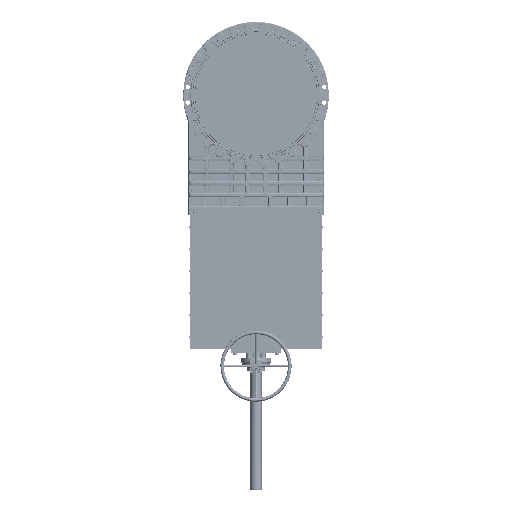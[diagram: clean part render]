
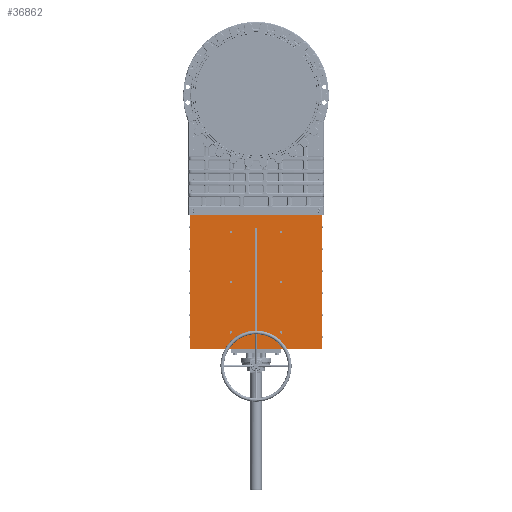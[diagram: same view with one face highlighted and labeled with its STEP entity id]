
A CAD part, top view. The second image highlights one B-rep face of the part: STEP entity #36862.
In plain terms, the highlighted planar face has unit normal (0, 0, 1).
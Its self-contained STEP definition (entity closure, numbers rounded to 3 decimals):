
#22228=PLANE('',#108870);
#24609=LINE('',#137655,#28668);
#27834=LINE('',#181002,#31893);
#27835=LINE('',#181006,#31894);
#27836=LINE('',#181007,#31895);
#27837=LINE('',#181010,#31896);
#27838=LINE('',#181012,#31897);
#27839=LINE('',#181013,#31898);
#27840=LINE('',#181015,#31899);
#28668=VECTOR('',#111901,1.);
#31893=VECTOR('',#131258,1.);
#31894=VECTOR('',#131261,1.);
#31895=VECTOR('',#131262,1.);
#31896=VECTOR('',#131263,1.);
#31897=VECTOR('',#131264,1.);
#31898=VECTOR('',#131265,1.);
#31899=VECTOR('',#131266,1.);
#36862=ADVANCED_FACE('',(#42387,#42388,#42389,#42390,#42391,#42392,#42393,
#42394),#22228,.T.);
#42387=FACE_BOUND('',#49145,.T.);
#42388=FACE_BOUND('',#49146,.T.);
#42389=FACE_BOUND('',#49147,.T.);
#42390=FACE_BOUND('',#49148,.T.);
#42391=FACE_BOUND('',#49149,.T.);
#42392=FACE_BOUND('',#49150,.T.);
#42393=FACE_BOUND('',#49151,.T.);
#42394=FACE_BOUND('',#49152,.T.);
#49145=EDGE_LOOP('',(#69222));
#49146=EDGE_LOOP('',(#69223));
#49147=EDGE_LOOP('',(#69224));
#49148=EDGE_LOOP('',(#69225));
#49149=EDGE_LOOP('',(#69226));
#49150=EDGE_LOOP('',(#69227));
#49151=EDGE_LOOP('',(#69228,#69229,#69230,#69231));
#49152=EDGE_LOOP('',(#69232,#69233,#69234,#69235,#69236,#69237));
#69222=ORIENTED_EDGE('',*,*,#90470,.T.);
#69223=ORIENTED_EDGE('',*,*,#90471,.T.);
#69224=ORIENTED_EDGE('',*,*,#90472,.T.);
#69225=ORIENTED_EDGE('',*,*,#90473,.T.);
#69226=ORIENTED_EDGE('',*,*,#90474,.T.);
#69227=ORIENTED_EDGE('',*,*,#90475,.T.);
#69228=ORIENTED_EDGE('',*,*,#90476,.F.);
#69229=ORIENTED_EDGE('',*,*,#90477,.F.);
#69230=ORIENTED_EDGE('',*,*,#90478,.F.);
#69231=ORIENTED_EDGE('',*,*,#90479,.T.);
#69232=ORIENTED_EDGE('',*,*,#90480,.T.);
#69233=ORIENTED_EDGE('',*,*,#90481,.F.);
#69234=ORIENTED_EDGE('',*,*,#90482,.T.);
#69235=ORIENTED_EDGE('',*,*,#81750,.T.);
#69236=ORIENTED_EDGE('',*,*,#90483,.T.);
#69237=ORIENTED_EDGE('',*,*,#90484,.F.);
#74251=VERTEX_POINT('',#137656);
#74252=VERTEX_POINT('',#137657);
#79800=VERTEX_POINT('',#180988);
#79801=VERTEX_POINT('',#180990);
#79802=VERTEX_POINT('',#180992);
#79803=VERTEX_POINT('',#180994);
#79804=VERTEX_POINT('',#180996);
#79805=VERTEX_POINT('',#180998);
#79806=VERTEX_POINT('',#181000);
#79807=VERTEX_POINT('',#181001);
#79808=VERTEX_POINT('',#181003);
#79809=VERTEX_POINT('',#181005);
#79810=VERTEX_POINT('',#181008);
#79811=VERTEX_POINT('',#181009);
#79812=VERTEX_POINT('',#181011);
#79813=VERTEX_POINT('',#181014);
#81750=EDGE_CURVE('',#74251,#74252,#24609,.T.);
#90470=EDGE_CURVE('',#79800,#79800,#97084,.T.);
#90471=EDGE_CURVE('',#79801,#79801,#97085,.T.);
#90472=EDGE_CURVE('',#79802,#79802,#97086,.T.);
#90473=EDGE_CURVE('',#79803,#79803,#97087,.T.);
#90474=EDGE_CURVE('',#79804,#79804,#97088,.T.);
#90475=EDGE_CURVE('',#79805,#79805,#97089,.T.);
#90476=EDGE_CURVE('',#79806,#79807,#97090,.T.);
#90477=EDGE_CURVE('',#79808,#79806,#27834,.T.);
#90478=EDGE_CURVE('',#79809,#79808,#97091,.T.);
#90479=EDGE_CURVE('',#79809,#79807,#27835,.T.);
#90480=EDGE_CURVE('',#79810,#79811,#27836,.T.);
#90481=EDGE_CURVE('',#79812,#79811,#27837,.T.);
#90482=EDGE_CURVE('',#79812,#74251,#27838,.T.);
#90483=EDGE_CURVE('',#74252,#79813,#27839,.T.);
#90484=EDGE_CURVE('',#79810,#79813,#27840,.T.);
#97084=CIRCLE('',#108862,10.);
#97085=CIRCLE('',#108863,10.);
#97086=CIRCLE('',#108864,10.);
#97087=CIRCLE('',#108865,10.);
#97088=CIRCLE('',#108866,10.);
#97089=CIRCLE('',#108867,10.);
#97090=CIRCLE('',#108868,5.);
#97091=CIRCLE('',#108869,5.);
#108862=AXIS2_PLACEMENT_3D('',#180987,#131244,#131245);
#108863=AXIS2_PLACEMENT_3D('',#180989,#131246,#131247);
#108864=AXIS2_PLACEMENT_3D('',#180991,#131248,#131249);
#108865=AXIS2_PLACEMENT_3D('',#180993,#131250,#131251);
#108866=AXIS2_PLACEMENT_3D('',#180995,#131252,#131253);
#108867=AXIS2_PLACEMENT_3D('',#180997,#131254,#131255);
#108868=AXIS2_PLACEMENT_3D('',#180999,#131256,#131257);
#108869=AXIS2_PLACEMENT_3D('',#181004,#131259,#131260);
#108870=AXIS2_PLACEMENT_3D('',#181016,#131267,#131268);
#111901=DIRECTION('',(1.,0.,0.));
#131244=DIRECTION('',(0.,0.,-1.));
#131245=DIRECTION('',(1.,0.,0.));
#131246=DIRECTION('',(0.,0.,-1.));
#131247=DIRECTION('',(0.,1.,0.));
#131248=DIRECTION('',(0.,0.,-1.));
#131249=DIRECTION('',(1.,0.,0.));
#131250=DIRECTION('',(0.,0.,-1.));
#131251=DIRECTION('',(1.,0.,0.));
#131252=DIRECTION('',(0.,0.,-1.));
#131253=DIRECTION('',(0.,1.,0.));
#131254=DIRECTION('',(0.,0.,-1.));
#131255=DIRECTION('',(0.,1.,0.));
#131256=DIRECTION('',(0.,0.,1.));
#131257=DIRECTION('',(1.,0.,0.));
#131258=DIRECTION('',(0.,1.,0.));
#131259=DIRECTION('',(0.,0.,1.));
#131260=DIRECTION('',(1.,0.,0.));
#131261=DIRECTION('',(0.,1.,0.));
#131262=DIRECTION('',(-1.,0.,0.));
#131263=DIRECTION('',(0.,1.,0.));
#131264=DIRECTION('',(1.,0.,0.));
#131265=DIRECTION('',(1.,0.,0.));
#131266=DIRECTION('',(0.,-1.,0.));
#131267=DIRECTION('',(0.,0.,1.));
#131268=DIRECTION('',(1.,0.,0.));
#137655=CARTESIAN_POINT('',(0.,-2144.,125.));
#137656=CARTESIAN_POINT('',(-210.,-2144.,125.));
#137657=CARTESIAN_POINT('',(210.,-2144.,125.));
#180987=CARTESIAN_POINT('',(212.,-1580.5,125.));
#180988=CARTESIAN_POINT('',(222.,-1580.5,125.));
#180989=CARTESIAN_POINT('',(-212.,-2004.,125.));
#180990=CARTESIAN_POINT('',(-212.,-1994.,125.));
#180991=CARTESIAN_POINT('',(212.,-2004.,125.));
#180992=CARTESIAN_POINT('',(222.,-2004.,125.));
#180993=CARTESIAN_POINT('',(212.,-1157.,125.));
#180994=CARTESIAN_POINT('',(222.,-1157.,125.));
#180995=CARTESIAN_POINT('',(-212.,-1157.,125.));
#180996=CARTESIAN_POINT('',(-212.,-1147.,125.));
#180997=CARTESIAN_POINT('',(-212.,-1580.5,125.));
#180998=CARTESIAN_POINT('',(-212.,-1570.5,125.));
#180999=CARTESIAN_POINT('',(0.,-1122.,125.));
#181000=CARTESIAN_POINT('',(5.,-1122.,125.));
#181001=CARTESIAN_POINT('',(-5.,-1122.,125.));
#181002=CARTESIAN_POINT('',(5.,-1625.5,125.));
#181003=CARTESIAN_POINT('',(5.,-2099.,125.));
#181004=CARTESIAN_POINT('',(0.,-2099.,125.));
#181005=CARTESIAN_POINT('',(-5.,-2099.,125.));
#181006=CARTESIAN_POINT('',(-5.,-1625.5,125.));
#181007=CARTESIAN_POINT('',(0.,-1017.,125.));
#181008=CARTESIAN_POINT('',(555.5,-1017.,125.));
#181009=CARTESIAN_POINT('',(-555.5,-1017.,125.));
#181010=CARTESIAN_POINT('',(-555.5,-1625.5,125.));
#181011=CARTESIAN_POINT('',(-555.5,-2144.,125.));
#181012=CARTESIAN_POINT('',(0.,-2144.,125.));
#181013=CARTESIAN_POINT('',(0.,-2144.,125.));
#181014=CARTESIAN_POINT('',(555.5,-2144.,125.));
#181015=CARTESIAN_POINT('',(555.5,-1625.5,125.));
#181016=CARTESIAN_POINT('',(0.,-1625.5,125.));
